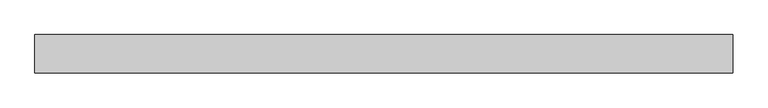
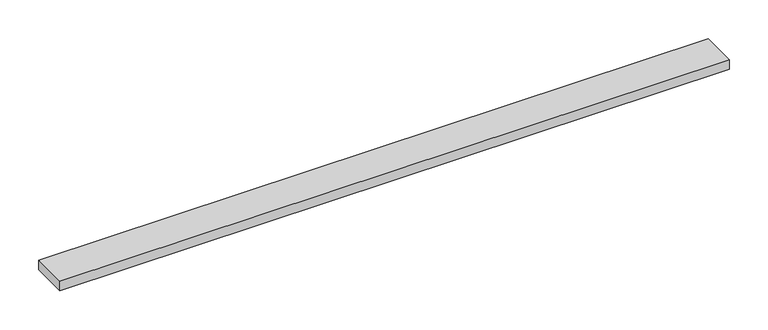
"""IFC4 building model written with IfcOpenShell, lengths in millimetres: sanitary terminal geometry, PF_UN_ShowerDrain S+_ACO : watertrap H=30."""

import ifcopenshell
import ifcopenshell.guid

model = None  # the IFC model being written
_history = None  # IfcOwnerHistory: only IFC2X3 demands one
_inside = {}  # id of a spatial element -> (the spatial element, [elements in it])
_under = {}  # id of a project, library or spatial element -> (it, [spatial elements below it])
_declared = {}  # id of a project -> (the project, [libraries it declares])
_typed = {}  # id of a type object -> (the type object, [elements of that type])
_made_of = {}  # id of a material, layer set ... -> (it, [elements and type objects made of it])


def new_model(schema):
    """Start an empty IFC model of exactly this schema.

    Asked for "IFC4X3", IfcOpenShell would pick the latest addendum, in which some entities
    have other attributes; the version numbers below select the first issue.
    IFC2X3 requires an IfcOwnerHistory on every rooted entity: one is made here for all.
    """
    global model, _history
    if schema == "IFC4X3":
        model = ifcopenshell.file(schema_version=(4, 3, 0, 0))
    else:
        model = ifcopenshell.file(schema=schema)
    _inside.clear()
    _under.clear()
    _declared.clear()
    _typed.clear()
    _made_of.clear()
    _history = None
    if model.schema == "IFC2X3":
        org = make("IfcOrganization", Name="unknown")
        user = make(
            "IfcPersonAndOrganization",
            ThePerson=make("IfcPerson", FamilyName="unknown"),
            TheOrganization=org,
        )
        app = make(
            "IfcApplication",
            ApplicationDeveloper=org,
            Version="unknown",
            ApplicationFullName="unknown",
            ApplicationIdentifier="unknown",
        )
        _history = make(
            "IfcOwnerHistory",
            OwningUser=user,
            OwningApplication=app,
            ChangeAction="ADDED",
            CreationDate=0,
        )
    return model


def make(cls, **values):
    """One entity of the class cls with the attributes given. An attribute that is None is left unset."""
    return model.create_entity(
        cls, **{name: value for name, value in values.items() if value is not None}
    )


def rooted(cls, **values):
    """An entity with a GlobalId (a new one), such as an element, a storey or a relation."""
    return make(cls, GlobalId=ifcopenshell.guid.new(), OwnerHistory=_history, **values)


def si_unit(unit_type, name, prefix=None):
    """IfcSIUnit, for example si_unit("LENGTHUNIT", "METRE", prefix="MILLI")."""
    return make("IfcSIUnit", UnitType=unit_type, Prefix=prefix, Name=name)


def assignment(units):
    """IfcUnitAssignment: the units of a project."""
    return None if units is None else make("IfcUnitAssignment", Units=units)


def point(xyz):
    """IfcCartesianPoint."""
    return None if xyz is None else make("IfcCartesianPoint", Coordinates=xyz)


def direction(xyz):
    """IfcDirection."""
    return None if xyz is None else make("IfcDirection", DirectionRatios=xyz)


def frame(location, z_axis=None, x_axis=None):
    """IfcAxis2Placement3D, a coordinate frame: its origin and axes. An axis left out is left unset."""
    return make(
        "IfcAxis2Placement3D",
        Location=point(location),
        Axis=direction(z_axis),
        RefDirection=direction(x_axis),
    )


def origin():
    """The frame at (0, 0, 0) with its axes left unset."""
    return frame((0.0, 0.0, 0.0))


def place(relative_to, where):
    """IfcLocalPlacement: puts the frame where relative to a parent placement (None: the world)."""
    return make(
        "IfcLocalPlacement", PlacementRelTo=relative_to, RelativePlacement=where
    )


def context(
    kind, dimensions, precision=None, world=None, true_north=None, identifier=None
):
    """IfcGeometricRepresentationContext, for example the 3D "Model" context."""
    return make(
        "IfcGeometricRepresentationContext",
        ContextIdentifier=identifier,
        ContextType=kind,
        CoordinateSpaceDimension=dimensions,
        Precision=precision,
        WorldCoordinateSystem=world,
        TrueNorth=true_north,
    )


def project(units=None, contexts=None):
    """IfcProject with its units and contexts."""
    return rooted(
        "IfcProject",
        Name="project",
        RepresentationContexts=contexts,
        UnitsInContext=assignment(units),
    )


def spatial(cls, under=None, at=None, **own):
    """A site, building, storey or space (cls), placed at a placement, below another one or the project."""
    s = rooted(cls, ObjectPlacement=at, **own)
    if under is not None:
        _under.setdefault(under.id(), (under, []))[1].append(s)
    return s


def polyline(points):
    """IfcPolyline through the points."""
    return make("IfcPolyline", Points=[point(p) for p in points])


def outline(outer, holes=None, kind="AREA"):
    """IfcArbitraryClosedProfileDef: a profile drawn as a closed curve; with holes, ...WithVoids."""
    if holes is None:
        return make("IfcArbitraryClosedProfileDef", ProfileType=kind, OuterCurve=outer)
    return make(
        "IfcArbitraryProfileDefWithVoids",
        ProfileType=kind,
        OuterCurve=outer,
        InnerCurves=holes,
    )


def extrude(swept, where, along, depth):
    """IfcExtrudedAreaSolid: the profile swept, set in the frame where, extruded along a direction by depth."""
    return make(
        "IfcExtrudedAreaSolid",
        SweptArea=swept,
        Position=where,
        ExtrudedDirection=direction(along),
        Depth=depth,
    )


def shape(context_of_items, identifier, shape_type, items):
    """IfcShapeRepresentation: the items that make up one representation, for example the "Body"."""
    return make(
        "IfcShapeRepresentation",
        ContextOfItems=context_of_items,
        RepresentationIdentifier=identifier,
        RepresentationType=shape_type,
        Items=items,
    )


def source(mapping_origin, context_of_items, identifier, shape_type, items):
    """IfcRepresentationMap: a shape defined once, which mapped items show again and again."""
    return make(
        "IfcRepresentationMap",
        MappingOrigin=mapping_origin,
        MappedRepresentation=shape(context_of_items, identifier, shape_type, items),
    )


def transform(
    local_origin,
    x_axis=None,
    y_axis=None,
    z_axis=None,
    scale=None,
    scale2=None,
    scale3=None,
    uniform=True,
):
    """IfcCartesianTransformationOperator3D, or its non-uniform kind. x_axis, y_axis, z_axis: its Axis1, 2, 3."""
    if uniform:
        return make(
            "IfcCartesianTransformationOperator3D",
            Axis1=direction(x_axis),
            Axis2=direction(y_axis),
            LocalOrigin=point(local_origin),
            Scale=scale,
            Axis3=direction(z_axis),
        )
    return make(
        "IfcCartesianTransformationOperator3DnonUniform",
        Axis1=direction(x_axis),
        Axis2=direction(y_axis),
        LocalOrigin=point(local_origin),
        Scale=scale,
        Axis3=direction(z_axis),
        Scale2=scale2,
        Scale3=scale3,
    )


def mapped(mapping_source, mapping_target):
    """IfcMappedItem: shows the shape of a source again, moved by a transform."""
    return make(
        "IfcMappedItem", MappingSource=mapping_source, MappingTarget=mapping_target
    )


def made_of(thing, what):
    """Note that an element or type object is made of a material, layer set ...; save() writes the relation."""
    if what is not None:
        _made_of.setdefault(what.id(), (what, []))[1].append(thing)
    return thing


def element(
    cls,
    number,
    at=None,
    inside=None,
    cuts=None,
    type_object=None,
    material=None,
    context=None,
    identifier="Body",
    shape_type=None,
    held_by="IfcProductDefinitionShape",
    body=None,
    shapes=None,
    **own,
):
    """One element of the class cls, such as IfcWall. Its Tag is "e" and its number.

    at: its placement. inside: the storey or other place that contains it. cuts: it is an
    opening in that element (IfcRelVoidsElement). A single representation is given by context,
    identifier, shape_type and body (its items); several are given by shapes. held_by: the class
    of the entity that holds the representations. save() writes the other relations.
    """
    e = rooted(cls, Tag="e%d" % number, ObjectPlacement=at, **own)
    if body is not None:
        shapes = [shape(context, identifier, shape_type, body)]
    if shapes is not None:
        e.Representation = make(held_by, Representations=shapes)
    if inside is not None:
        _inside.setdefault(inside.id(), (inside, []))[1].append(e)
    if cuts is not None:
        rooted(
            "IfcRelVoidsElement", RelatingBuildingElement=cuts, RelatedOpeningElement=e
        )
    if type_object is not None:
        _typed.setdefault(type_object.id(), (type_object, []))[1].append(e)
    return made_of(e, material)


def aggregate(whole, parts):
    """IfcRelAggregates: a whole, such as a stair, and the parts it consists of."""
    return rooted("IfcRelAggregates", RelatingObject=whole, RelatedObjects=parts)


def save(model, path):
    """Write the relations noted so far, then the file.

    IfcRelAggregates (storeys below a building ...), IfcRelContainedInSpatialStructure (elements
    in a storey), IfcRelDefinesByType, IfcRelAssociatesMaterial and IfcRelDeclares: one each for
    every whole, place, type object, material and project.
    """
    for whole, parts in _under.values():
        aggregate(whole, parts)
    for where, things in _inside.values():
        rooted(
            "IfcRelContainedInSpatialStructure",
            RelatedElements=things,
            RelatingStructure=where,
        )
    for kind, things in _typed.values():
        rooted("IfcRelDefinesByType", RelatedObjects=things, RelatingType=kind)
    for what, things in _made_of.values():
        rooted("IfcRelAssociatesMaterial", RelatedObjects=things, RelatingMaterial=what)
    for by, libraries in _declared.values():
        rooted("IfcRelDeclares", RelatingContext=by, RelatedDefinitions=libraries)
    model.write(path)


def sanitary_terminal_0af4ac13(model_context):
    return source(origin(), model_context, "Body", "SweptSolid", [
        extrude(outline(polyline([(500.0, 27.5), (500.0, -27.5), (-500.0, -27.5), (-500.0, 27.5), (500.0, 27.5)])), frame((0.0, 0.0, -15.0), z_axis=(0.0, 0.0, 1.0), x_axis=(1.0, 0.0, 0.0)), (0.0, 0.0, 1.0), 15.0),
    ])


if __name__ == "__main__":
    model = new_model("IFC4")
    model_context = context("Model", 3, world=origin())
    ifc_project = project(units=[si_unit("LENGTHUNIT", "METRE", prefix="MILLI")], contexts=[model_context])
    site = spatial("IfcSite", under=ifc_project)
    building = spatial("IfcBuilding", under=site)
    placement = place(None, origin())
    sanitary_terminal_shape = sanitary_terminal_0af4ac13(model_context)
    element("IfcSanitaryTerminal", 1, ObjectType="PF_UN_ShowerDrain S+_ACO : watertrap H=30", at=placement, inside=building, context=model_context, shape_type="MappedRepresentation", body=[
        mapped(sanitary_terminal_shape, transform((0.0, 0.0, 0.0), x_axis=(1.0, 0.0, 0.0), y_axis=(0.0, 1.0, 0.0), z_axis=(0.0, 0.0, 1.0))),
    ])
    save(model, "model.ifc")
